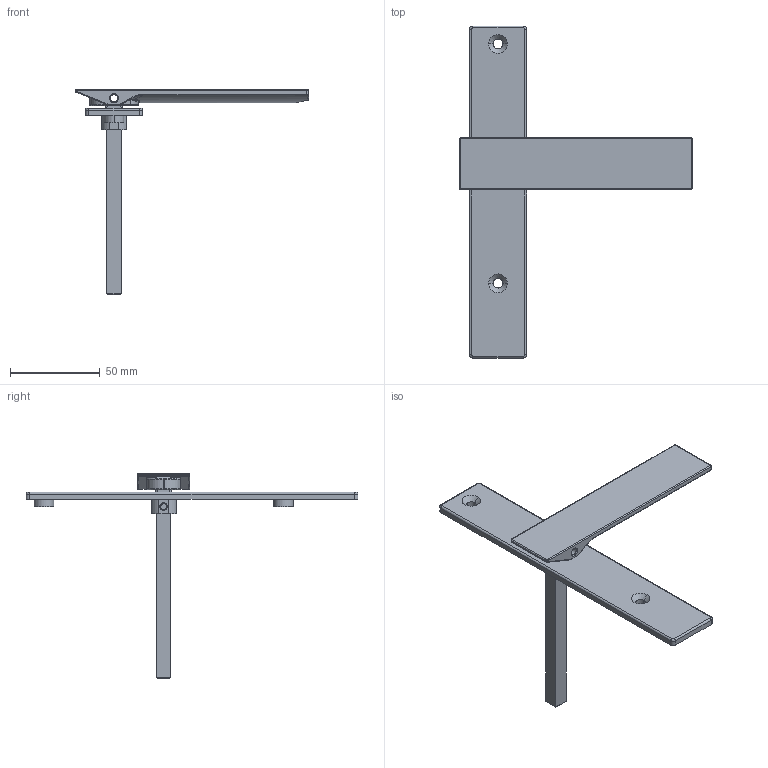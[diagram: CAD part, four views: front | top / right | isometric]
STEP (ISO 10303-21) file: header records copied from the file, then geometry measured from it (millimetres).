
FILE_DESCRIPTION (( 'STEP AP203' ), '1' );
FILE_NAME ('TPL-SS-001-100-B 27Apr2026.STEP', '2026-04-26T22:34:40', ( '' ), ( '' ), 'SwSTEP 2.0', 'SolidWorks 2023', '' );
FILE_SCHEMA (( 'CONFIG_CONTROL_DESIGN' ));
Length unit declared in the file: millimetre
Products named in the file (6): TPL-SS-001-100-B 27Apr2026; Copy of LKC-586 Spindle square 8mm with M4 hole - simplified^TPGen2 handle non-keyed SS - simplified_100mm; Copy of LKC-585 Rotator body zinc - simplified^TPGen2 handle non-keyed SS - simplified; Copy of LKC-584 Pivot body zinc - simplified^TPGen2 handle non-keyed SS - simplified; Copy of Escutcheon plate unkeyed 185mm - simplified^TPGen2 handle non-keyed SS - simplified; Copy of LKC-506 Swing handle SS - simplified^TPGen2 handle non-keyed SS - simplified
Assembly tree (5 placements, depth 2):
  TPL-SS-001-100-B 27Apr2026
    Copy of Escutcheon plate unkeyed 185mm - simplified^TPGen2 handle non-keyed SS - simplified
    Copy of LKC-586 Spindle square 8mm with M4 hole - simplified^TPGen2 handle non-keyed SS - simplified_100mm
    Copy of LKC-584 Pivot body zinc - simplified^TPGen2 handle non-keyed SS - simplified
    Copy of LKC-585 Rotator body zinc - simplified^TPGen2 handle non-keyed SS - simplified
    Copy of LKC-506 Swing handle SS - simplified^TPGen2 handle non-keyed SS - simplified
Bounding box: 130 x 185.15 x 114.55 mm (x, y, z)
Volume: 52905.9 mm3; surface area: 29684.3 mm2
Topology: 5 solids, 5 shells, 285 faces, 678 edges, 408 vertices
Faces by surface type: cylinder 105, plane 78, bspline 44, torus 36, cone 20, sphere 2
Entity records: 9836 total; most frequent: CARTESIAN_POINT 2865, ORIENTED_EDGE 1352, DIRECTION 1333, EDGE_CURVE 676, AXIS2_PLACEMENT_3D 528, VERTEX_POINT 408, EDGE_LOOP 314, FACE_OUTER_BOUND 285
